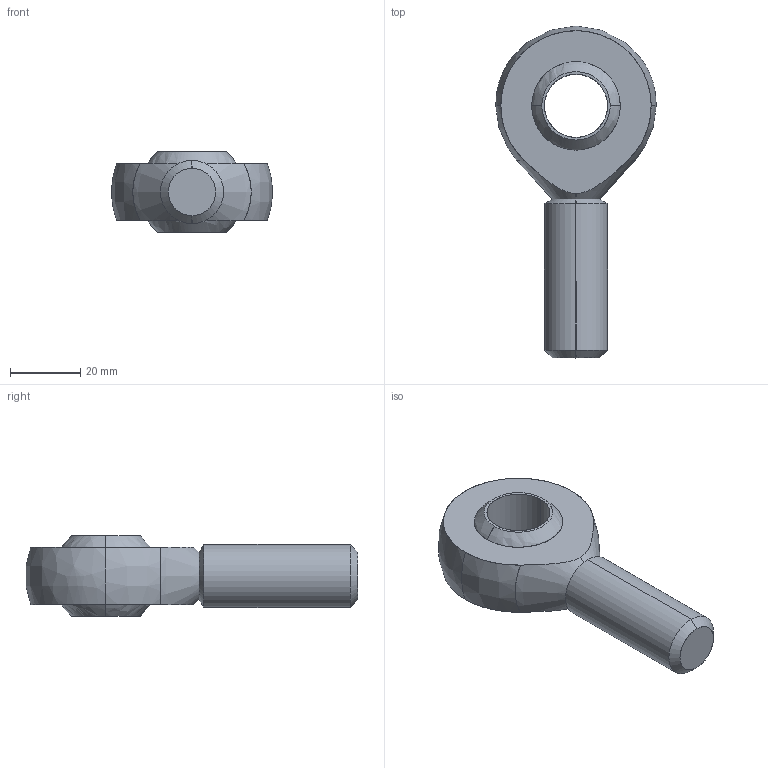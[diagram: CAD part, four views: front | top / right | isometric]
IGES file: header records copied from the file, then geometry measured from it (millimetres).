
Start section: SolidWorks IGES file using analytic representation for surfaces
Global section: file name: C:\Users\Honza\Desktop\Matis\TSM18.IGS; native system: SolidWorks 2010; preprocessor: SolidWorks 2010; author: Honza; date: 130918.150625; units: millimetre
Bounding box: 45.88 x 94.82 x 23 mm (x, y, z)
Surface area: 12277.6 mm2 (no closed solid volume)
Topology: 0 solids, 0 shells, 22 faces, 542 edges, 538 vertices
Faces by surface type: bspline 12, revolution 10
